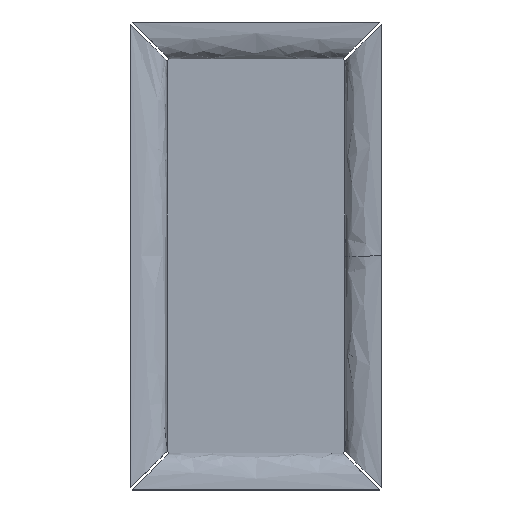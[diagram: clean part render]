
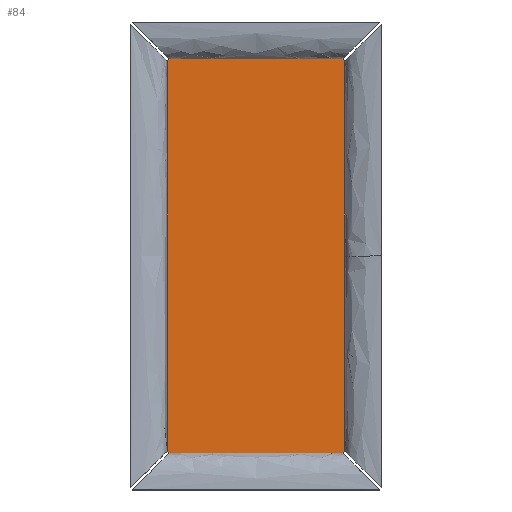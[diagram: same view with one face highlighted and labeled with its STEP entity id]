
A CAD part, top view. The second image highlights one B-rep face of the part: STEP entity #84.
In plain terms, the highlighted planar face has unit normal (0, 0, 1).
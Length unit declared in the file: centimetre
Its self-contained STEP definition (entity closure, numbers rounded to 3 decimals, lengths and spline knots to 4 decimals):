
#84=ADVANCED_FACE($,(#152),#852,.T.);
#152=FACE_OUTER_BOUND($,#220,.T.);
#220=EDGE_LOOP($,(#504,#505,#506,#507,#508,#509,#510,#511));
#504=ORIENTED_EDGE($,*,*,#674,.T.);
#505=ORIENTED_EDGE($,*,*,#688,.T.);
#506=ORIENTED_EDGE($,*,*,#687,.T.);
#507=ORIENTED_EDGE($,*,*,#686,.T.);
#508=ORIENTED_EDGE($,*,*,#685,.T.);
#509=ORIENTED_EDGE($,*,*,#684,.T.);
#510=ORIENTED_EDGE($,*,*,#683,.T.);
#511=ORIENTED_EDGE($,*,*,#682,.T.);
#674=EDGE_CURVE($,#777,#791,#994,.T.);
#682=EDGE_CURVE($,#785,#777,#1002,.T.);
#683=EDGE_CURVE($,#786,#785,#1003,.T.);
#684=EDGE_CURVE($,#787,#786,#1004,.T.);
#685=EDGE_CURVE($,#788,#787,#1005,.T.);
#686=EDGE_CURVE($,#789,#788,#1006,.T.);
#687=EDGE_CURVE($,#790,#789,#1007,.T.);
#688=EDGE_CURVE($,#791,#790,#1008,.T.);
#777=VERTEX_POINT($,#3693);
#785=VERTEX_POINT($,#3701);
#786=VERTEX_POINT($,#3702);
#787=VERTEX_POINT($,#3703);
#788=VERTEX_POINT($,#3704);
#789=VERTEX_POINT($,#3705);
#790=VERTEX_POINT($,#3706);
#791=VERTEX_POINT($,#3707);
#852=PLANE($,#1118);
#994=B_SPLINE_CURVE_WITH_KNOTS($,1,(#3638,#3639),.UNSPECIFIED.,.F.,.F.,(2,
2),(785.6562,786.8583),.UNSPECIFIED.);
#1002=B_SPLINE_CURVE_WITH_KNOTS($,1,(#3654,#3655),.UNSPECIFIED.,.F.,.F.,
(2,2),(1187.3646,1259.6646),.UNSPECIFIED.);
#1003=B_SPLINE_CURVE_WITH_KNOTS($,1,(#3656,#3657),.UNSPECIFIED.,.F.,.F.,
(2,2),(1186.1625,1187.3646),.UNSPECIFIED.);
#1004=B_SPLINE_CURVE_WITH_KNOTS($,1,(#3658,#3659),.UNSPECIFIED.,.F.,.F.,
(2,2),(1023.8625,1186.1625),.UNSPECIFIED.);
#1005=B_SPLINE_CURVE_WITH_KNOTS($,1,(#3660,#3661),.UNSPECIFIED.,.F.,.F.,
(2,2),(1022.6604,1023.8625),.UNSPECIFIED.);
#1006=B_SPLINE_CURVE_WITH_KNOTS($,1,(#3662,#3663),.UNSPECIFIED.,.F.,.F.,
(2,2),(950.3604,1022.6604),.UNSPECIFIED.);
#1007=B_SPLINE_CURVE_WITH_KNOTS($,1,(#3664,#3665),.UNSPECIFIED.,.F.,.F.,
(2,2),(949.1583,950.3604),.UNSPECIFIED.);
#1008=B_SPLINE_CURVE_WITH_KNOTS($,1,(#3666,#3667),.UNSPECIFIED.,.F.,.F.,
(2,2),(786.8583,949.1583),.UNSPECIFIED.);
#1118=AXIS2_PLACEMENT_3D($,#3684,#1143,$);
#1143=DIRECTION($,(0.,0.,1.));
#3638=CARTESIAN_POINT($,(0.85,164.,3.6));
#3639=CARTESIAN_POINT($,(0.,163.15,3.6));
#3654=CARTESIAN_POINT($,(73.15,164.,3.6));
#3655=CARTESIAN_POINT($,(0.85,164.,3.6));
#3656=CARTESIAN_POINT($,(74.,163.15,3.6));
#3657=CARTESIAN_POINT($,(73.15,164.,3.6));
#3658=CARTESIAN_POINT($,(74.,0.85,3.6));
#3659=CARTESIAN_POINT($,(74.,163.15,3.6));
#3660=CARTESIAN_POINT($,(73.15,0.,3.6));
#3661=CARTESIAN_POINT($,(74.,0.85,3.6));
#3662=CARTESIAN_POINT($,(0.85,0.,3.6));
#3663=CARTESIAN_POINT($,(73.15,0.,3.6));
#3664=CARTESIAN_POINT($,(0.,0.85,3.6));
#3665=CARTESIAN_POINT($,(0.85,0.,3.6));
#3666=CARTESIAN_POINT($,(0.,163.15,3.6));
#3667=CARTESIAN_POINT($,(0.,0.85,3.6));
#3684=CARTESIAN_POINT($,(0.,0.,3.6));
#3693=CARTESIAN_POINT($,(0.85,164.,3.6));
#3701=CARTESIAN_POINT($,(73.15,164.,3.6));
#3702=CARTESIAN_POINT($,(74.,163.15,3.6));
#3703=CARTESIAN_POINT($,(74.,0.85,3.6));
#3704=CARTESIAN_POINT($,(73.15,0.,3.6));
#3705=CARTESIAN_POINT($,(0.85,0.,3.6));
#3706=CARTESIAN_POINT($,(0.,0.85,3.6));
#3707=CARTESIAN_POINT($,(0.,163.15,3.6));
